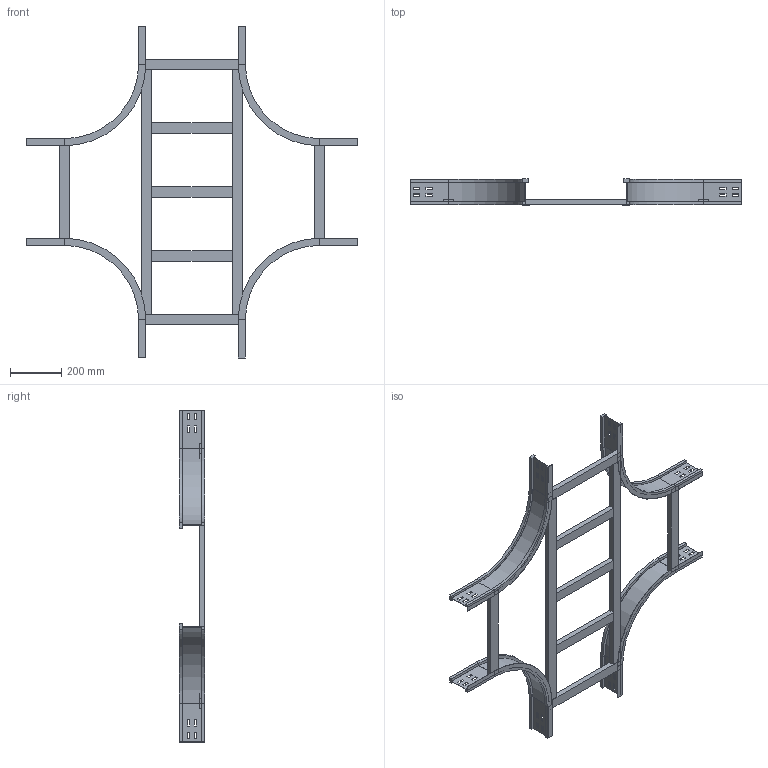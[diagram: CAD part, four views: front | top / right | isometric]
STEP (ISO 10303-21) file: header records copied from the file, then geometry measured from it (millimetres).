
FILE_DESCRIPTION (( 'STEP AP214' ), '1' );
FILE_NAME ('17S3D400.step', '2025-02-21T16:15:57', ( '' ), ( '' ), 'SwSTEP 2.0', 'SolidWorks 2023', '' );
FILE_SCHEMA (( 'AUTOMOTIVE_DESIGN' ));
Length unit declared in the file: millimetre
Products named in the file (5): 17S3D400; TRAVERSINO_INTERMEDIO_X_R300+400; TRAVERSINO_400; TRAVERSINO_LONG._R300+400; LONGH.INTERNO 90°_H100_R300
Assembly tree (13 placements, depth 2):
  17S3D400
    LONGH.INTERNO 90°_H100_R300  x4
    TRAVERSINO_400  x4
    TRAVERSINO_INTERMEDIO_X_R300+400  x3
    TRAVERSINO_LONG._R300+400  x2
Bounding box: 1300 x 100 x 1300 mm (x, y, z)
Volume: 5236124.2 mm3; surface area: 1465888.2 mm2
Topology: 13 solids, 13 shells, 334 faces, 828 edges, 520 vertices
Faces by surface type: plane 310, cylinder 24
Entity records: 2778 total; most frequent: CARTESIAN_POINT 456, DIRECTION 436, ORIENTED_EDGE 432, EDGE_CURVE 216, VECTOR 204, LINE 204, VERTEX_POINT 136, AXIS2_PLACEMENT_3D 116
